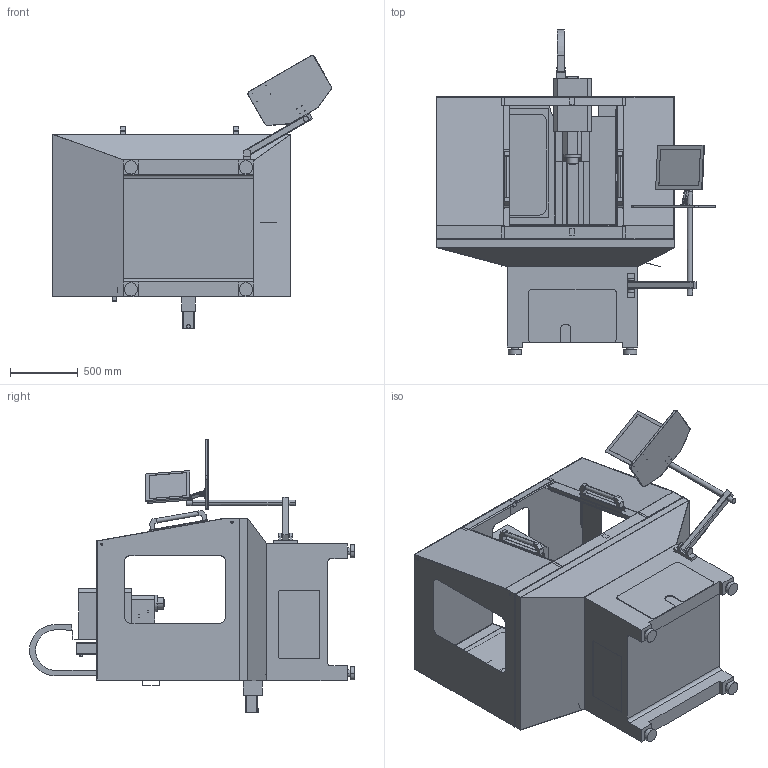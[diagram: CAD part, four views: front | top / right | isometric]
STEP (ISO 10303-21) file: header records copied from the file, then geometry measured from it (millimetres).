
FILE_DESCRIPTION (( 'STEP AP214' ), '1' );
FILE_NAME ('1100M_MACHINE_REVA.STEP', '2018-07-11T14:16:14', ( '' ), ( '' ), 'SwSTEP 2.0', 'SolidWorks 2016', '' );
FILE_SCHEMA (( 'AUTOMOTIVE_DESIGN' ));
Length unit declared in the file: millimetre
Products named in the file (15): Part9^37998; Part1^37998; 35450; 35998; 35995; 35992_MACHINED; 35996; 35997; 35991_MACHINED; XYSADDLE; XAXIS; SPINDLEHEAD; ZAXIS; YAXIS; 1100M_MACHINE_REVA
Assembly tree (17 placements, depth 2):
  1100M_MACHINE_REVA
    YAXIS
    ZAXIS
    SPINDLEHEAD
    XAXIS
    XYSADDLE
    35991_MACHINED
    35997  x2
    35996  x2
    35992_MACHINED  x2
    35995
    35998
    35450
    Part1^37998
    Part9^37998
Bounding box: 2060.19 x 2395.97 x 2013.95 mm (x, y, z)
Volume: 628744448.7 mm3; surface area: 32661255.7 mm2
Topology: 46 solids, 50 shells, 2231 faces, 5936 edges, 3854 vertices
Faces by surface type: plane 1455, cylinder 609, bspline 103, cone 64
Entity records: 91860 total; most frequent: CARTESIAN_POINT 14040, ORIENTED_EDGE 11257, DIRECTION 10864, EDGE_CURVE 5631, LINE 4324, VECTOR 4324, VERTEX_POINT 3694, AXIS2_PLACEMENT_3D 3270
